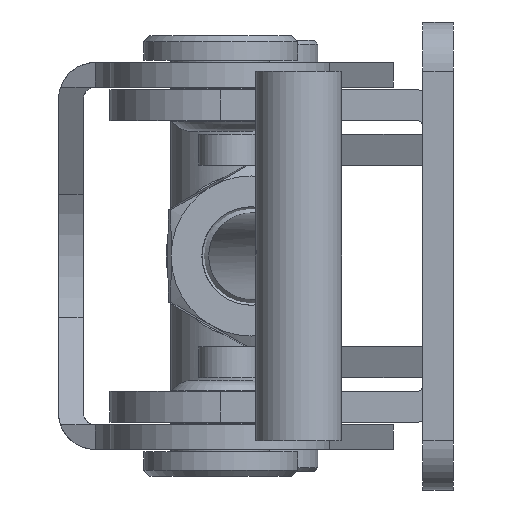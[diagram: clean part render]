
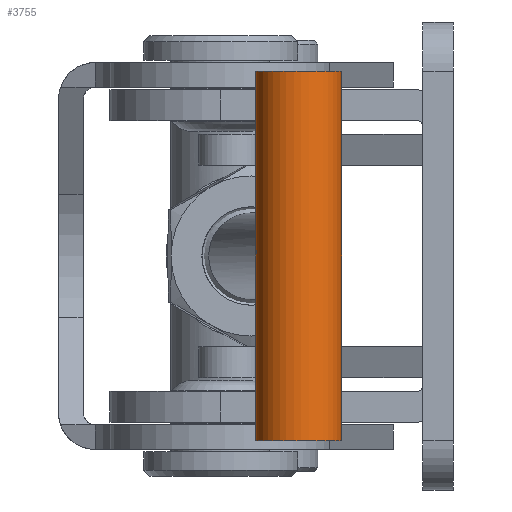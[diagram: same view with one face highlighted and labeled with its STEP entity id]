
A CAD part, left-side view. The second image highlights one B-rep face of the part: STEP entity #3755.
In plain terms, the highlighted cylindrical face has radius 3.5 mm (diameter 7 mm), a full revolution.
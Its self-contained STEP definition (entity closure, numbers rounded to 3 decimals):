
#146=CYLINDRICAL_SURFACE('',#4084,3.5);
#261=CIRCLE('',#4085,3.5);
#262=CIRCLE('',#4086,3.5);
#434=ELLIPSE('',#4075,4.95,3.5);
#435=ELLIPSE('',#4076,4.95,3.5);
#662=ORIENTED_EDGE('',*,*,#1630,.F.);
#663=ORIENTED_EDGE('',*,*,#1625,.T.);
#664=ORIENTED_EDGE('',*,*,#1626,.T.);
#665=ORIENTED_EDGE('',*,*,#1631,.T.);
#1625=EDGE_CURVE('',#2129,#2130,#434,.F.);
#1626=EDGE_CURVE('',#2130,#2129,#435,.F.);
#1630=EDGE_CURVE('',#2134,#2134,#261,.T.);
#1631=EDGE_CURVE('',#2135,#2135,#262,.T.);
#2129=VERTEX_POINT('',#5837);
#2130=VERTEX_POINT('',#5838);
#2134=VERTEX_POINT('',#5852);
#2135=VERTEX_POINT('',#5854);
#3033=EDGE_LOOP('',(#662));
#3034=EDGE_LOOP('',(#663,#664));
#3035=EDGE_LOOP('',(#665));
#3347=FACE_BOUND('',#3033,.T.);
#3348=FACE_BOUND('',#3034,.T.);
#3349=FACE_BOUND('',#3035,.T.);
#3755=ADVANCED_FACE('',(#3347,#3348,#3349),#146,.T.);
#4075=AXIS2_PLACEMENT_3D('',#5836,#4674,#4675);
#4076=AXIS2_PLACEMENT_3D('',#5839,#4676,#4677);
#4084=AXIS2_PLACEMENT_3D('',#5850,#4692,#4693);
#4085=AXIS2_PLACEMENT_3D('',#5851,#4694,#4695);
#4086=AXIS2_PLACEMENT_3D('',#5853,#4696,#4697);
#4674=DIRECTION('',(0.707,0.,-0.707));
#4675=DIRECTION('',(0.707,0.,0.707));
#4676=DIRECTION('',(0.707,0.,0.707));
#4677=DIRECTION('',(0.707,0.,-0.707));
#4692=DIRECTION('',(0.,0.,-1.));
#4693=DIRECTION('',(-1.,0.,0.));
#4694=DIRECTION('',(0.,0.,-1.));
#4695=DIRECTION('',(-1.,0.,0.));
#4696=DIRECTION('',(0.,0.,-1.));
#4697=DIRECTION('',(-1.,0.,0.));
#5836=CARTESIAN_POINT('',(-80.526,0.,0.));
#5837=CARTESIAN_POINT('',(-80.526,-3.5,0.));
#5838=CARTESIAN_POINT('',(-80.526,3.5,0.));
#5839=CARTESIAN_POINT('',(-80.526,0.,0.));
#5850=CARTESIAN_POINT('',(-80.526,0.,-15.));
#5851=CARTESIAN_POINT('',(-80.526,0.,-15.));
#5852=CARTESIAN_POINT('',(-84.026,0.,-15.));
#5853=CARTESIAN_POINT('',(-80.526,0.,15.));
#5854=CARTESIAN_POINT('',(-84.026,0.,15.));
